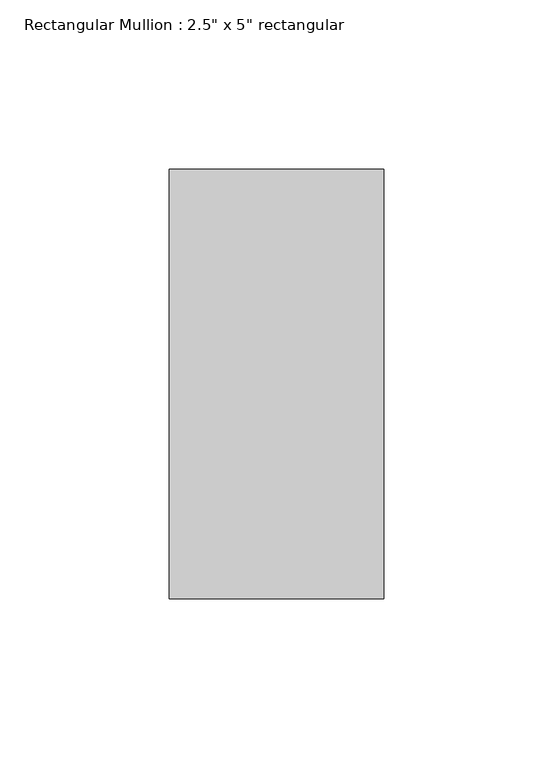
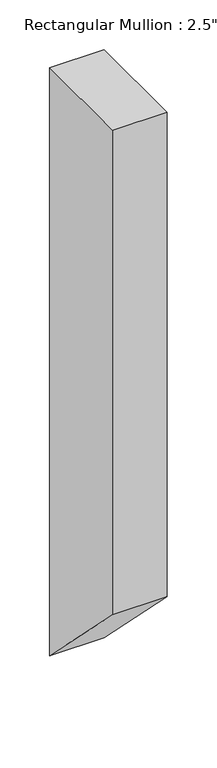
"""IFC4 building model written with IfcOpenShell, lengths in millimetres: member geometry."""

from ifc_helpers import new_model, si_unit, frame, origin, place, context, project, spatial, polyline, outline, extrude, source, transform, mapped, element, save


def member_f6b3c571(model_context):
    return source(origin(), model_context, "Body", "SweptSolid", [
        extrude(outline(polyline([(-63.5, 0.0), (63.5, 0.0), (63.5, -722.4), (-63.5, -595.4), (-63.5, 0.0)])), frame((-31.75, 0.0, 0.0), z_axis=(1.0, 0.0, 0.0), x_axis=(0.0, 1.0, 0.0)), (0.0, 0.0, 1.0), 63.5),
    ])


if __name__ == "__main__":
    model = new_model("IFC4")
    model_context = context("Model", 3, world=origin())
    ifc_project = project(units=[si_unit("LENGTHUNIT", "METRE", prefix="MILLI")], contexts=[model_context])
    site = spatial("IfcSite", under=ifc_project)
    building = spatial("IfcBuilding", under=site)
    placement = place(None, origin())
    member_shape = member_f6b3c571(model_context)
    element("IfcMember", 1, ObjectType="Rectangular Mullion : 2.5\" x 5\" rectangular", at=placement, inside=building, context=model_context, shape_type="MappedRepresentation", body=[
        mapped(member_shape, transform((0.0, 0.0, 0.0), x_axis=(1.0, 0.0, 0.0), y_axis=(0.0, 1.0, 0.0), z_axis=(0.0, 0.0, 1.0))),
    ])
    save(model, "model.ifc")
